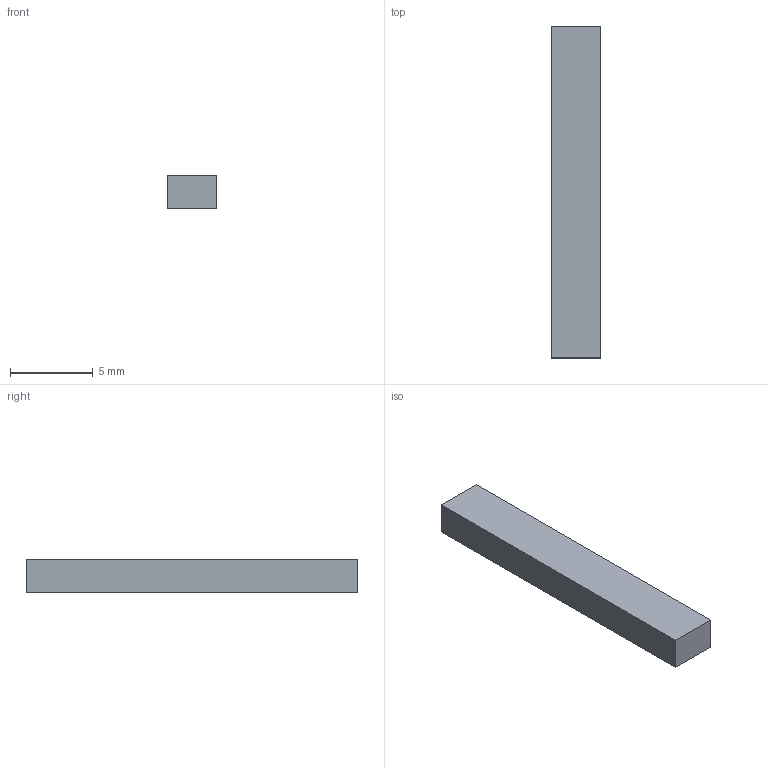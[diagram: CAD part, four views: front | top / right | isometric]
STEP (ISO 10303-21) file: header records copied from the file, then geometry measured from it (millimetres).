
FILE_DESCRIPTION(('Open CASCADE Model'),'2;1');
FILE_NAME('Open CASCADE Shape Model','2026-11-24T19:57:40',('Author'),( 'Open CASCADE'),'Open CASCADE STEP processor 7.8','Open CASCADE 7.8' ,'Unknown');
FILE_SCHEMA(('AUTOMOTIVE_DESIGN { 1 0 10303 214 1 1 1 1 }'));
Length unit declared in the file: millimetre
Products named in the file (1): Open CASCADE STEP translator 7.8 127
Bounding box: 3 x 20 x 2 mm (x, y, z)
Volume: 120 mm3; surface area: 212 mm2
Topology: 1 solids, 1 shells, 6 faces, 12 edges, 8 vertices
Faces by surface type: plane 6
Entity records: 322 total; most frequent: CARTESIAN_POINT 51, DIRECTION 50, LINE 36, VECTOR 36, ORIENTED_EDGE 24, PCURVE 24, DEFINITIONAL_REPRESENTATION 24, EDGE_CURVE 12
